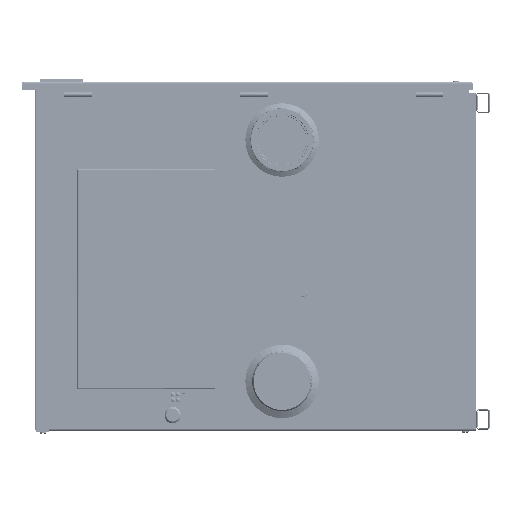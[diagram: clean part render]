
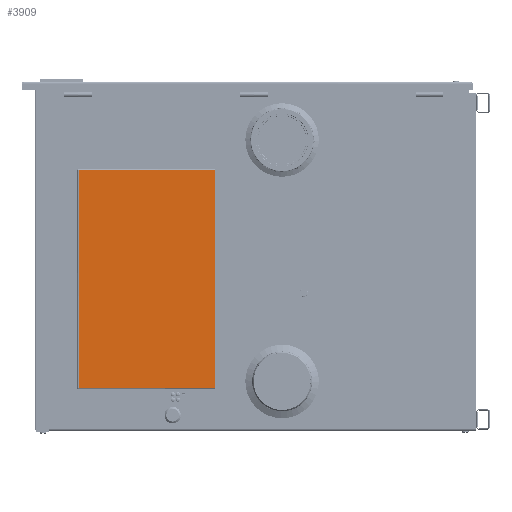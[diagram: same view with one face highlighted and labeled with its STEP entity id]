
A CAD part, left-side view. The second image highlights one B-rep face of the part: STEP entity #3909.
In plain terms, the highlighted planar face has unit normal (-1, 0, 0).
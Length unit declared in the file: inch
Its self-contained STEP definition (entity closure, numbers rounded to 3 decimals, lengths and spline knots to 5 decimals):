
#507 = LINE ( 'NONE', #53972, #61172 ) ;
#3909 = ADVANCED_FACE ( 'NONE', ( #92877 ), #6036, .T. ) ;
#6036 = PLANE ( 'NONE',  #45588 ) ;
#6374 = DIRECTION ( 'NONE',  ( 0., 0., 1. ) ) ;
#6519 = CARTESIAN_POINT ( 'NONE',  ( -17.10168, 3.21008, 6.59246 ) ) ;
#6580 = DIRECTION ( 'NONE',  ( 0., 0., 1. ) ) ;
#8722 = DIRECTION ( 'NONE',  ( 0., 0., -1. ) ) ;
#22511 = ORIENTED_EDGE ( 'NONE', *, *, #58490, .T. ) ;
#22656 = VECTOR ( 'NONE', #8722, 39.37008 ) ;
#29464 = ORIENTED_EDGE ( 'NONE', *, *, #37669, .T. ) ;
#30714 = EDGE_CURVE ( 'NONE', #90877, #61976, #93265, .T. ) ;
#35125 = VERTEX_POINT ( 'NONE', #55497 ) ;
#35681 = CARTESIAN_POINT ( 'NONE',  ( -17.10168, 13.08458, 6.59246 ) ) ;
#37669 = EDGE_CURVE ( 'NONE', #41444, #90877, #507, .T. ) ;
#39810 = DIRECTION ( 'NONE',  ( 0., 1., 0. ) ) ;
#40322 = CARTESIAN_POINT ( 'NONE',  ( -17.10168, 13.08458, 6.62762 ) ) ;
#41444 = VERTEX_POINT ( 'NONE', #55708 ) ;
#43707 = LINE ( 'NONE', #40322, #22656 ) ;
#45588 = AXIS2_PLACEMENT_3D ( 'NONE', #101104, #53771, #6374 ) ;
#47372 = CARTESIAN_POINT ( 'NONE',  ( -17.10168, 3.21008, 6.59246 ) ) ;
#49398 = CARTESIAN_POINT ( 'NONE',  ( -17.10168, 13.11974, -9.15654 ) ) ;
#52324 = ORIENTED_EDGE ( 'NONE', *, *, #30714, .T. ) ;
#53771 = DIRECTION ( 'NONE',  ( -1., 0., 0. ) ) ;
#53972 = CARTESIAN_POINT ( 'NONE',  ( -17.10168, 3.21008, -9.28204 ) ) ;
#55497 = CARTESIAN_POINT ( 'NONE',  ( -17.10168, 13.08458, -9.15654 ) ) ;
#55708 = CARTESIAN_POINT ( 'NONE',  ( -17.10168, 3.21008, -9.15654 ) ) ;
#57408 = DIRECTION ( 'NONE',  ( 0., -1., 0. ) ) ;
#58490 = EDGE_CURVE ( 'NONE', #35125, #41444, #84134, .T. ) ;
#61172 = VECTOR ( 'NONE', #6580, 39.37008 ) ;
#61313 = ORIENTED_EDGE ( 'NONE', *, *, #96189, .T. ) ;
#61976 = VERTEX_POINT ( 'NONE', #35681 ) ;
#63147 = VECTOR ( 'NONE', #57408, 39.37008 ) ;
#69788 = VECTOR ( 'NONE', #39810, 39.37008 ) ;
#84134 = LINE ( 'NONE', #49398, #63147 ) ;
#90877 = VERTEX_POINT ( 'NONE', #6519 ) ;
#91040 = EDGE_LOOP ( 'NONE', ( #61313, #22511, #29464, #52324 ) ) ;
#92877 = FACE_OUTER_BOUND ( 'NONE', #91040, .T. ) ;
#93265 = LINE ( 'NONE', #47372, #69788 ) ;
#96189 = EDGE_CURVE ( 'NONE', #61976, #35125, #43707, .T. ) ;
#101104 = CARTESIAN_POINT ( 'NONE',  ( -17.10168, 8.21008, -1.28204 ) ) ;
